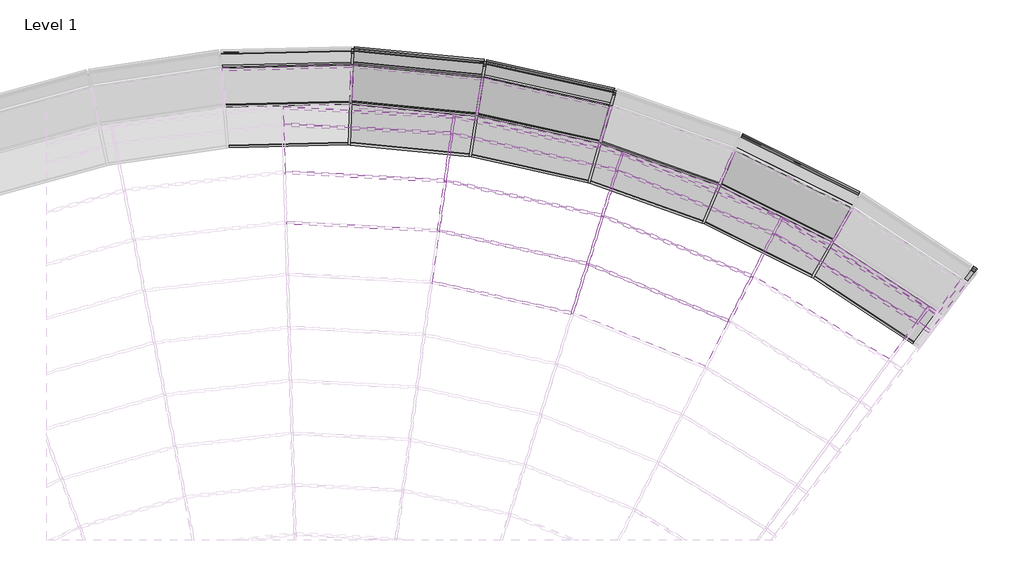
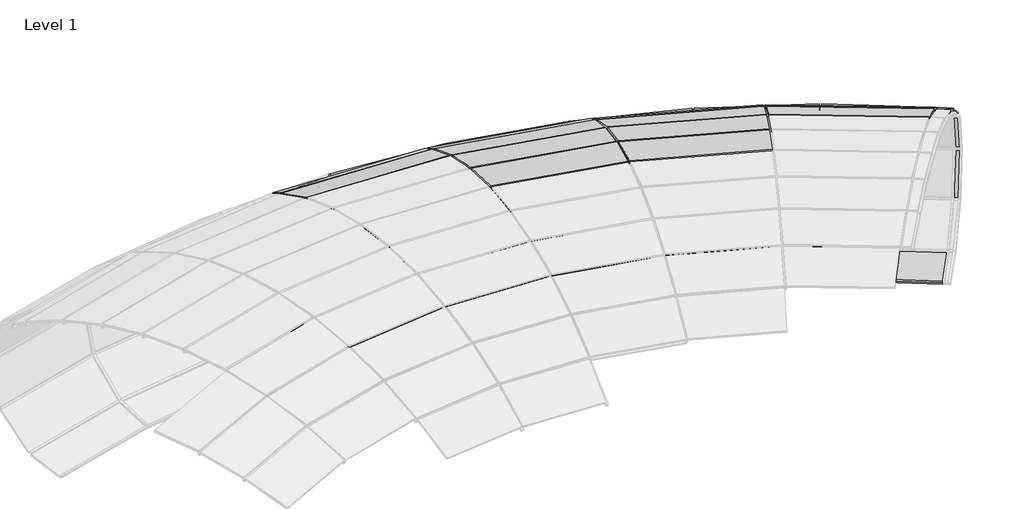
# One storey, part 12 of 23: 71 members, 34 plates.
"""IFC4 building model written with IfcOpenShell, lengths in millimetres."""

from ifc_helpers import new_model, si_unit, origin, place, context, project, spatial, transform, mapped, element, save
from components import member_0cd36c09, member_d0a40a1c, member_ff9adfd2, member_6de91377, member_1c681369, member_20199af6, member_f0155a20, member_cc44513a, member_775132e8, member_8c9da58c, member_391bee44, member_01ebdf2a, member_d6b8231b, member_b171f0c8, member_07455e61, member_515abc7c, member_6834bcaf, member_a3fa0b53, member_b335b832, system_panel_glazed_33c7ebbf, system_panel_glazed_ea272296, system_panel_glazed_e73c3b5f, system_panel_glazed_c38b7309, system_panel_glazed_ed9c6069, system_panel_glazed_e73b46dd, system_panel_glazed_18511c49, system_panel_glazed_e5225984, system_panel_glazed_3a502b53, system_panel_glazed_94c3709e, system_panel_glazed_a189dd2a, system_panel_glazed_130e820a, system_panel_glazed_5e04bf78

model = new_model("IFC4")

# Units and contexts
model_context = context("Model", 3, world=origin())
ifc_project = project(units=[si_unit("LENGTHUNIT", "METRE", prefix="MILLI")], contexts=[model_context])

# Site, building, storey
site = spatial("IfcSite", under=ifc_project)
building = spatial("IfcBuilding", under=site)
storey = spatial("IfcBuildingStorey", under=building, Name="Level 1", Elevation=0.0)

# Members
placement = place(None, origin())
member_shape = member_0cd36c09(model_context)
element("IfcMember", 1, ObjectType="Rectangular Mullion : 1\" Square", at=placement, inside=storey, context=model_context, shape_type="MappedRepresentation", body=[
    mapped(member_shape, transform((1344.2126682, -2686.1420293, 2676.0506073), x_axis=(0.9907327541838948, -0.13582565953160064, 0.0), y_axis=(0.0445916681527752, 0.3252583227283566, 0.944573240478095), z_axis=(-0.12829728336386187, -0.9358196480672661, 0.3283007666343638))),
])
element("IfcMember", 2, ObjectType="Rectangular Mullion : 1\" Square", at=placement, inside=storey, context=model_context, shape_type="MappedRepresentation", body=[
    mapped(member_shape, transform((2878.8079698, -3635.9627782, 2806.2019711), x_axis=(0.9547335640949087, -0.29746230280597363, 0.0), y_axis=(0.06350906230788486, 0.20383837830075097, 0.9769424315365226), z_axis=(-0.2906035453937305, -0.9327197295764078, 0.2135028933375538))),
])
element("IfcMember", 3, ObjectType="Rectangular Mullion : 1\" Square", at=placement, inside=storey, context=model_context, shape_type="MappedRepresentation", body=[
    mapped(member_shape, transform((3055.959891, -3067.3768311, 2676.0506073), x_axis=(0.9547335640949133, -0.29746230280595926, 0.0), y_axis=(0.09765710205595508, 0.3134397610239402, 0.9445732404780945), z_axis=(-0.28097493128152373, -0.9018157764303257, 0.3283007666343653))),
])
element("IfcMember", 4, ObjectType="Rectangular Mullion : 1\" Square", at=placement, inside=storey, context=model_context, shape_type="MappedRepresentation", body=[
    mapped(member_shape, transform((4681.3225086, -3725.871243, 2676.0506073), x_axis=(0.8925533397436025, -0.4509418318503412, 0.0), y_axis=(0.14804454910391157, 0.2930259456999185, 0.9445732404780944), z_axis=(-0.4259475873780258, -0.8430820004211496, 0.3283007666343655))),
])
member_2_shape = member_d0a40a1c(model_context)
element("IfcMember", 5, ObjectType="Rectangular Mullion : 1\" Square", at=placement, inside=storey, context=model_context, shape_type="MappedRepresentation", body=[
    mapped(member_2_shape, transform((1422.4226921, -2115.6663718, 2475.91846), x_axis=(0.9907327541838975, -0.13582565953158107, 0.0), y_axis=(0.05954978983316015, 0.43436510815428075, 0.8987662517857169), z_axis=(-0.12207551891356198, -0.890437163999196, 0.4384281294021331))),
])
element("IfcMember", 6, ObjectType="Rectangular Mullion : 1\" Square", at=placement, inside=storey, context=model_context, shape_type="MappedRepresentation", body=[
    mapped(member_2_shape, transform((3227.2422092, -2517.6299338, 2475.91846), x_axis=(0.9547335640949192, -0.29746230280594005, 0.0), y_axis=(0.13041584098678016, 0.4185820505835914, 0.8987662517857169), z_axis=(-0.2673490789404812, -0.858082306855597, 0.43842812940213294))),
])
element("IfcMember", 7, ObjectType="Rectangular Mullion : 1\" Square", at=placement, inside=storey, context=model_context, shape_type="MappedRepresentation", body=[
    mapped(member_2_shape, transform((4940.9801579, -3211.9284555, 2475.91846), x_axis=(0.8925533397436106, -0.4509418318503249, 0.0), y_axis=(0.19770558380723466, 0.3913204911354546, 0.8987662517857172), z_axis=(-0.4052912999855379, -0.8021968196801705, 0.4384281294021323))),
])
member_3_shape = member_ff9adfd2(model_context)
element("IfcMember", 8, ObjectType="Rectangular Mullion : 1\" Square", at=placement, inside=storey, context=model_context, shape_type="MappedRepresentation", body=[
    mapped(member_3_shape, transform((1496.8399284, -1572.8558767, 2208.6526723), x_axis=(0.9907327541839, -0.1358256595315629, 0.0), y_axis=(0.06948914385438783, 0.5068642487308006, 0.8592205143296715), z_axis=(-0.11670419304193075, -0.8512579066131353, 0.5116054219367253))),
])
element("IfcMember", 9, ObjectType="Rectangular Mullion : 1\" Square", at=placement, inside=storey, context=model_context, shape_type="MappedRepresentation", body=[
    mapped(member_3_shape, transform((3390.2182077, -1994.5429595, 2208.6526723), x_axis=(0.954733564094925, -0.2974623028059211, 0.0), y_axis=(0.15218332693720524, 0.4884468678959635, 0.8592205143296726), z_axis=(-0.25558571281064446, -0.8203266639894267, 0.5116054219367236))),
])
element("IfcMember", 10, ObjectType="Rectangular Mullion : 1\" Square", at=placement, inside=storey, context=model_context, shape_type="MappedRepresentation", body=[
    mapped(member_3_shape, transform((5188.0457344, -2722.9092742, 2208.6526723), x_axis=(0.8925533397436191, -0.4509418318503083, 0.0), y_axis=(0.2307042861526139, 0.45663512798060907, 0.8592205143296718), z_axis=(-0.3874584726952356, -0.7669001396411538, 0.511605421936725))),
])
element("IfcMember", 11, ObjectType="Rectangular Mullion : 1\" Square", at=placement, inside=storey, context=model_context, shape_type="MappedRepresentation", body=[
    mapped(member_3_shape, transform((6841.0218598, -3737.9813076, 2208.6526723), x_axis=(0.8058972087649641, -0.592055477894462, 0.0), y_axis=(0.30289879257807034, 0.41230138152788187, 0.8592205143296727), z_axis=(-0.5087062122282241, -0.6924434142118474, 0.5116054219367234))),
])
member_4_shape = member_6de91377(model_context)
element("IfcMember", 12, ObjectType="Rectangular Mullion : 1\" Square", at=placement, inside=storey, context=model_context, shape_type="MappedRepresentation", body=[
    mapped(member_4_shape, transform((2866.4116937, -3633.2019198, 2806.2019711), x_axis=(0.2147917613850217, 0.9644166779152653, -0.15415891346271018), y_axis=(0.03351267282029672, 0.1504721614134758, 0.9880460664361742), z_axis=(0.9760847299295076, -0.2173904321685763, 0.0))),
])
member_5_shape = member_1c681369(model_context)
element("IfcMember", 13, ObjectType="Rectangular Mullion : 1\" Square", at=placement, inside=storey, context=model_context, shape_type="MappedRepresentation", body=[
    mapped(member_5_shape, transform((1331.5307397, -2685.4647622, 2676.0506073), x_axis=(0.051342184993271, 0.9613900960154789, -0.27035728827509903), y_axis=(0.014417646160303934, 0.26997258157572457, 0.9627600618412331), z_axis=(0.9985770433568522, -0.053328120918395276, 0.0))),
])
element("IfcMember", 14, ObjectType="Rectangular Mullion : 1\" Square", at=placement, inside=storey, context=model_context, shape_type="MappedRepresentation", body=[
    mapped(member_5_shape, transform((3043.563615, -3064.6159726, 2676.0506073), x_axis=(0.20929482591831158, 0.939735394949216, -0.27035728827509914), y_axis=(0.05877308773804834, 0.26389162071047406, 0.9627600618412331), z_axis=(0.9760847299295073, -0.21739043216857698, 0.0))),
])
element("IfcMember", 15, ObjectType="Rectangular Mullion : 1\" Square", at=placement, inside=storey, context=model_context, shape_type="MappedRepresentation", body=[
    mapped(member_5_shape, transform((4669.5518199, -3721.1025024, 2676.0506073), x_axis=(0.3615081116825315, 0.8923109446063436, -0.27035728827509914), y_axis=(0.10151683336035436, 0.25057413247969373, 0.9627600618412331), z_axis=(0.9268258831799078, -0.37549138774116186, 0.0))),
])
member_6_shape = member_20199af6(model_context)
element("IfcMember", 16, ObjectType="Rectangular Mullion : 1\" Square", at=placement, inside=storey, context=model_context, shape_type="MappedRepresentation", body=[
    mapped(member_6_shape, transform((1409.7407637, -2114.9891047, 2475.91846), x_axis=(0.04926663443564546, 0.9225251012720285, -0.3827796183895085), y_axis=(0.020412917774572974, 0.38223493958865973, 0.9238396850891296), z_axis=(0.9985770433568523, -0.053328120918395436, 0.0))),
])
element("IfcMember", 17, ObjectType="Rectangular Mullion : 1\" Square", at=placement, inside=storey, context=model_context, shape_type="MappedRepresentation", body=[
    mapped(member_6_shape, transform((3214.8459331, -2514.8690753, 2475.91846), x_axis=(0.20083390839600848, 0.9017458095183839, -0.38277961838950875), y_axis=(0.08321262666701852, 0.37362534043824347, 0.9238396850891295), z_axis=(0.9760847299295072, -0.2173904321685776, 0.0))),
])
element("IfcMember", 18, ObjectType="Rectangular Mullion : 1\" Square", at=placement, inside=storey, context=model_context, shape_type="MappedRepresentation", body=[
    mapped(member_6_shape, transform((4929.2094692, -3207.1597149, 2475.91846), x_axis=(0.34689384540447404, 0.856238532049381, -0.3827796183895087), y_axis=(0.1437304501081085, 0.35477005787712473, 0.9238396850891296), z_axis=(0.9268258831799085, -0.37549138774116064, 0.0))),
])
member_7_shape = member_f0155a20(model_context)
element("IfcMember", 19, ObjectType="Rectangular Mullion : 1\" Square", at=placement, inside=storey, context=model_context, shape_type="MappedRepresentation", body=[
    mapped(member_7_shape, transform((1484.158, -1572.1786095, 2208.6526723), x_axis=(0.04649197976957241, 0.8705692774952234, -0.4898444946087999), y_axis=(0.026122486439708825, 0.489147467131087, 0.8718098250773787), z_axis=(0.9985770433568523, -0.05332812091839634, 0.0))),
])
element("IfcMember", 20, ObjectType="Rectangular Mullion : 1\" Square", at=placement, inside=storey, context=model_context, shape_type="MappedRepresentation", body=[
    mapped(member_7_shape, transform((3377.8219316, -1991.782101, 2208.6526723), x_axis=(0.18952311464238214, 0.8509602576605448, -0.4898444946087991), y_axis=(0.10648750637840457, 0.47812973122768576, 0.8718098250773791), z_axis=(0.9760847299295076, -0.21739043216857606, 0.0))),
])
element("IfcMember", 21, ObjectType="Rectangular Mullion : 1\" Square", at=placement, inside=storey, context=model_context, shape_type="MappedRepresentation", body=[
    mapped(member_7_shape, transform((5176.2750457, -2718.1405336, 2208.6526723), x_axis=(0.3273570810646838, 0.8080159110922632, -0.48984449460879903), y_axis=(0.18393238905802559, 0.4540005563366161, 0.8718098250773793), z_axis=(0.9268258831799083, -0.3754913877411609, 0.0))),
])
element("IfcMember", 22, ObjectType="Rectangular Mullion : 1\" Square", at=placement, inside=storey, context=model_context, shape_type="MappedRepresentation", body=[
    mapped(member_7_shape, transform((6830.1995383, -3731.3354549, 2208.6526723), x_axis=(0.45621414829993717, 0.7429138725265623, -0.4898444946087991), y_axis=(0.2563334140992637, 0.4174216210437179, 0.8718098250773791), z_axis=(0.8521512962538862, -0.5232954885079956, 0.0))),
])
member_8_shape = member_cc44513a(model_context)
element("IfcMember", 23, ObjectType="Rectangular Mullion : 1\" Square", at=placement, inside=storey, context=model_context, shape_type="MappedRepresentation", body=[
    mapped(member_8_shape, transform((6979.6758413, -3841.6645549, 2208.6526723), x_axis=(0.5216341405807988, 0.6975731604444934, -0.4912122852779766), y_axis=(0.29416918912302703, 0.3933878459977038, 0.8710398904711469), z_axis=(0.8008509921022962, -0.5988636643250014, 0.0))),
])
member_9_shape = member_775132e8(model_context)
element("IfcMember", 24, ObjectType="Rectangular Mullion : 1\" Square", at=placement, inside=storey, context=model_context, shape_type="MappedRepresentation", body=[
    mapped(member_9_shape, transform((1512.2259527, -1367.4467482, 2085.6089632), x_axis=(0.04577927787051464, 0.8572238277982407, -0.5129050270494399), y_axis=(0.027352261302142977, 0.5121751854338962, 0.8584453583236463), z_axis=(0.9985770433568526, -0.05332812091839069, 0.0))),
])
element("IfcMember", 25, ObjectType="Rectangular Mullion : 1\" Square", at=placement, inside=storey, context=model_context, shape_type="MappedRepresentation", body=[
    mapped(member_9_shape, transform((3439.291597, -1794.4893611, 2085.6089632), x_axis=(0.186617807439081, 0.8379154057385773, -0.5129050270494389), y_axis=(0.11150064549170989, 0.500638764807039, 0.858445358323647), z_axis=(0.9760847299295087, -0.2173904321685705, 0.0))),
])
element("IfcMember", 26, ObjectType="Rectangular Mullion : 1\" Square", at=placement, inside=storey, context=model_context, shape_type="MappedRepresentation", body=[
    mapped(member_9_shape, transform((5269.4607813, -2533.6971449, 2085.6089632), x_axis=(0.3223388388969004, 0.7956293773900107, -0.5129050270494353), y_axis=(0.1925914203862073, 0.47537365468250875, 0.8584453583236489), z_axis=(0.9268258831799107, -0.3754913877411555, 0.0))),
])
element("IfcMember", 27, ObjectType="Rectangular Mullion : 1\" Square", at=placement, inside=storey, context=model_context, shape_type="MappedRepresentation", body=[
    mapped(member_9_shape, transform((6952.5459728, -3564.7992878, 2085.6089632), x_axis=(0.44922058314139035, 0.7315253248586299, -0.5129050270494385), y_axis=(0.26840088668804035, 0.43707268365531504, 0.8584453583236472), z_axis=(0.8521512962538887, -0.523295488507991, 0.0))),
])
member_10_shape = member_8c9da58c(model_context)
element("IfcMember", 28, ObjectType="Rectangular Mullion : 1\" Square", at=placement, inside=storey, context=model_context, shape_type="MappedRepresentation", body=[
    mapped(member_10_shape, transform((353.4483391, -796.3758477, 1696.6281859), x_axis=(0.999347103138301, -0.036129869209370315, 0.0), y_axis=(0.03440139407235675, 0.951537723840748, 0.3056018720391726), z_axis=(-0.011041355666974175, -0.3054023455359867, 0.9521593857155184))),
])
element("IfcMember", 29, ObjectType="Rectangular Mullion : 1\" Square", at=placement, inside=storey, context=model_context, shape_type="MappedRepresentation", body=[
    mapped(member_10_shape, transform((360.1791495, -610.2025778, 1116.1918244), x_axis=(0.9993471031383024, -0.03612986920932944, 0.0), y_axis=(0.03493738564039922, 0.9663631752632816, -0.25479715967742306), z_axis=(0.00920578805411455, 0.25463080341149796, 0.9669945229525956))),
])
element("IfcMember", 30, ObjectType="Rectangular Mullion : 1\" Square", at=placement, inside=storey, context=model_context, shape_type="MappedRepresentation", body=[
    mapped(member_10_shape, transform((1850.4708811, -941.8524455, 1696.6281859), x_axis=(0.9876054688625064, -0.15695680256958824, 0.0), y_axis=(0.14944789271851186, 0.9403578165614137, 0.30560187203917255), z_axis=(-0.047966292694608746, -0.30181408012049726, 0.9521593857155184))),
])
element("IfcMember", 31, ObjectType="Rectangular Mullion : 1\" Square", at=placement, inside=storey, context=model_context, shape_type="MappedRepresentation", body=[
    mapped(member_10_shape, transform((1879.7111332, -757.8665822, 1116.1918244), x_axis=(0.9876054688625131, -0.15695680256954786, 0.0), y_axis=(0.15177636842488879, 0.9550090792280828, -0.254797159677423), z_axis=(0.039992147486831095, 0.25163906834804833, 0.9669945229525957))),
])
element("IfcMember", 32, ObjectType="Rectangular Mullion : 1\" Square", at=placement, inside=storey, context=model_context, shape_type="MappedRepresentation", body=[
    mapped(member_10_shape, transform((3318.8348727, -1267.654717, 1696.6281859), x_axis=(0.9613094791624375, -0.2754706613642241, 0.0), y_axis=(0.2622919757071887, 0.9153198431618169, 0.3056018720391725), z_axis=(-0.0841843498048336, -0.29377797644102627, 0.9521593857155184))),
])
element("IfcMember", 33, ObjectType="Rectangular Mullion : 1\" Square", at=placement, inside=storey, context=model_context, shape_type="MappedRepresentation", body=[
    mapped(member_10_shape, transform((3370.1536524, -1088.5676625, 1116.1918244), x_axis=(0.9613094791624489, -0.2754706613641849, 0.0), y_axis=(0.2663786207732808, 0.9295810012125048, -0.2547971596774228), z_axis=(0.07018914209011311, 0.24493892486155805, 0.9669945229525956))),
])
member_11_shape = member_391bee44(model_context)
element("IfcMember", 34, ObjectType="Rectangular Mullion : 1\" Square", at=placement, inside=storey, context=model_context, shape_type="MappedRepresentation", body=[
    mapped(member_11_shape, transform((354.5673011, -765.4255156, 526.7119632), x_axis=(0.999347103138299, -0.03612986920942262, 0.0), y_axis=(0.02449370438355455, 0.6774924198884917, -0.7351218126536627), z_axis=(0.02655985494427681, 0.7346418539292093, 0.6779350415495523))),
])
element("IfcMember", 35, ObjectType="Rectangular Mullion : 1\" Square", at=placement, inside=storey, context=model_context, shape_type="MappedRepresentation", body=[
    mapped(member_11_shape, transform((1855.3319201, -911.2657583, 526.7119632), x_axis=(0.9876054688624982, -0.15695680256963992, 0.0), y_axis=(0.10640651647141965, 0.6695323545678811, -0.7351218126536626), z_axis=(0.11538236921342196, 0.7260103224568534, 0.6779350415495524))),
])
element("IfcMember", 36, ObjectType="Rectangular Mullion : 1\" Square", at=placement, inside=storey, context=model_context, shape_type="MappedRepresentation", body=[
    mapped(member_11_shape, transform((3327.3663514, -1237.8824311, 526.7119632), x_axis=(0.9613094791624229, -0.2754706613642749, 0.0), y_axis=(0.18675121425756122, 0.6517053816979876, -0.7351218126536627), z_axis=(0.20250449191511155, 0.7066795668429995, 0.6779350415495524))),
])
member_12_shape = member_01ebdf2a(model_context)
element("IfcMember", 37, ObjectType="Rectangular Mullion : 1\" Square", at=placement, inside=storey, context=model_context, shape_type="MappedRepresentation", body=[
    mapped(member_12_shape, transform((338.3764136, -1213.2631897, 113.4427618), x_axis=(0.9993471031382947, -0.0361298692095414, 0.0), y_axis=(0.008251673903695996, 0.22824014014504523, -0.9735698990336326), z_axis=(0.03517495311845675, 0.9729342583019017, 0.22838925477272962))),
])
element("IfcMember", 38, ObjectType="Rectangular Mullion : 1\" Square", at=placement, inside=storey, context=model_context, shape_type="MappedRepresentation", body=[
    mapped(member_12_shape, transform((1784.9948278, -1353.8416509, 113.4427618), x_axis=(0.9876054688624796, -0.15695680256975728, 0.0), y_axis=(0.035847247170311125, 0.2255584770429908, -0.9735698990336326), z_axis=(0.15280841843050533, 0.9615029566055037, 0.22838925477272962))),
])
element("IfcMember", 39, ObjectType="Rectangular Mullion : 1\" Square", at=placement, inside=storey, context=model_context, shape_type="MappedRepresentation", body=[
    mapped(member_12_shape, transform((3203.9196131, -1668.6742951, 113.4427618), x_axis=(0.9613094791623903, -0.27547066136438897, 0.0), y_axis=(0.06291453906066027, 0.21955275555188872, -0.9735698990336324), z_axis=(0.26818994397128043, 0.9359019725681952, 0.22838925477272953))),
])
element("IfcMember", 40, ObjectType="Rectangular Mullion : 1\" Square", at=placement, inside=storey, context=model_context, shape_type="MappedRepresentation", body=[
    mapped(member_12_shape, transform((4574.2400553, -2153.1214293, 113.4427618), x_axis=(0.92084665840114, -0.3899249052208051, 0.0), y_axis=(0.08905465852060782, 0.21031148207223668, -0.9735698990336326), z_axis=(0.3796191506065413, 0.896508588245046, 0.2283892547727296))),
])
element("IfcMember", 41, ObjectType="Rectangular Mullion : 1\" Square", at=placement, inside=storey, context=model_context, shape_type="MappedRepresentation", body=[
    mapped(member_12_shape, transform((5875.7617231, -2800.0437495, 113.4427618), x_axis=(0.8668133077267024, -0.4986328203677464, 0.0), y_axis=(0.11388237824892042, 0.19797084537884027, -0.9735698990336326), z_axis=(0.48545390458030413, 0.8439033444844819, 0.22838925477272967))),
])
member_13_shape = member_d6b8231b(model_context)
element("IfcMember", 42, ObjectType="Rectangular Mullion : 1\" Square", at=placement, inside=storey, context=model_context, shape_type="MappedRepresentation", body=[
    mapped(member_13_shape, transform((5849.729062, -2845.2984061, 2085.6089632), x_axis=(0.8668133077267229, -0.49863282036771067, 0.0), y_axis=(0.31817352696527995, 0.5531064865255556, 0.7699602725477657), z_axis=(-0.38392746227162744, -0.6674118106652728, 0.6380918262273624))),
])
element("IfcMember", 43, ObjectType="Rectangular Mullion : 1\" Square", at=placement, inside=storey, context=model_context, shape_type="MappedRepresentation", body=[
    mapped(member_13_shape, transform((4553.8828255, -2201.1970633, 2085.6089632), x_axis=(0.9208466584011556, -0.3899249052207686, 0.0), y_axis=(0.24880789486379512, 0.5875847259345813, 0.7699602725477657), z_axis=(-0.3002266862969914, -0.7090153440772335, 0.6380918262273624))),
])
element("IfcMember", 44, ObjectType="Rectangular Mullion : 1\" Square", at=placement, inside=storey, context=model_context, shape_type="MappedRepresentation", body=[
    mapped(member_13_shape, transform((3189.5378194, -1718.8624152, 2085.6089632), x_axis=(0.9613094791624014, -0.2754706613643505, 0.0), y_axis=(0.17577557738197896, 0.6134037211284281, 0.7699602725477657), z_axis=(-0.21210146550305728, -0.7401701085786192, 0.6380918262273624))),
])
element("IfcMember", 45, ObjectType="Rectangular Mullion : 1\" Square", at=placement, inside=storey, context=model_context, shape_type="MappedRepresentation", body=[
    mapped(member_13_shape, transform((1776.8004148, -1405.402634, 2085.6089632), x_axis=(0.987605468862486, -0.15695680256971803, 0.0), y_axis=(0.10015285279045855, 0.6301829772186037, 0.7699602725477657), z_axis=(-0.12085050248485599, -0.7604169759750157, 0.6380918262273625))),
])
element("IfcMember", 46, ObjectType="Rectangular Mullion : 1\" Square", at=placement, inside=storey, context=model_context, shape_type="MappedRepresentation", body=[
    mapped(member_13_shape, transform((336.4901425, -1265.4371811, 2085.6089632), x_axis=(0.9993471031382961, -0.03612986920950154, 0.0), y_axis=(0.023054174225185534, 0.6376752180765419, 0.7699602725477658), z_axis=(-0.027818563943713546, -0.7694575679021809, 0.6380918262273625))),
])
member_14_shape = member_b171f0c8(model_context)
element("IfcMember", 47, ObjectType="Rectangular Mullion : 1\" Square", at=placement, inside=storey, context=model_context, shape_type="MappedRepresentation", body=[
    mapped(member_14_shape, transform((347.4829914, -610.5149365, 1116.1918244), x_axis=(-0.0006524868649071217, 0.026521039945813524, -0.9996480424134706), y_axis=(-0.0245865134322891, 0.9993456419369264, 0.026529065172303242), z_axis=(0.9996974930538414, 0.024595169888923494, 0.0))),
])
element("IfcMember", 48, ObjectType="Rectangular Mullion : 1\" Square", at=placement, inside=storey, context=model_context, shape_type="MappedRepresentation", body=[
    mapped(member_14_shape, transform((1867.0706775, -756.638217, 1116.1918244), x_axis=(0.00256593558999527, 0.02640468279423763, -0.9996480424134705), y_axis=(0.0966876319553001, 0.9949611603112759, 0.026529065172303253), z_axis=(0.9953114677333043, -0.09672167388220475, 0.0))),
])
element("IfcMember", 49, ObjectType="Rectangular Mullion : 1\" Square", at=placement, inside=storey, context=model_context, shape_type="MappedRepresentation", body=[
    mapped(member_14_shape, transform((3357.7551818, -1085.8166758, 1116.1918244), x_axis=(0.005746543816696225, 0.025899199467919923, -0.9996480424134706), y_axis=(0.2165368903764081, 0.9759139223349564, 0.02652906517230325), z_axis=(0.9762575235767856, -0.21661312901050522, 0.0))),
])
member_15_shape = member_07455e61(model_context)
element("IfcMember", 50, ObjectType="Rectangular Mullion : 1\" Square", at=placement, inside=storey, context=model_context, shape_type="MappedRepresentation", body=[
    mapped(member_15_shape, transform((341.871143, -765.7378742, 526.7119632), x_axis=(0.012706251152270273, -0.5164594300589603, -0.8562173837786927), y_axis=(-0.02105881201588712, 0.8559583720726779, -0.5166157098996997), z_axis=(0.9996974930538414, 0.024595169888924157, 0.0))),
])
element("IfcMember", 51, ObjectType="Rectangular Mullion : 1\" Square", at=placement, inside=storey, context=model_context, shape_type="MappedRepresentation", body=[
    mapped(member_15_shape, transform((1842.6914644, -910.0373931, 526.7119632), x_axis=(-0.049967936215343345, -0.5141935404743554, -0.8562173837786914), y_axis=(0.08281477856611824, 0.8522029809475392, -0.5166157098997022), z_axis=(0.995311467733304, -0.09672167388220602, 0.0))),
])
element("IfcMember", 52, ObjectType="Rectangular Mullion : 1\" Square", at=placement, inside=storey, context=model_context, shape_type="MappedRepresentation", body=[
    mapped(member_15_shape, transform((3314.9678808, -1235.1314444, 526.7119632), x_axis=(-0.1119057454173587, -0.5043499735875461, -0.8562173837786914), y_axis=(0.1854679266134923, 0.8358886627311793, -0.5166157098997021), z_axis=(0.9762575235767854, -0.2166131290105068, 0.0))),
])
member_16_shape = member_515abc7c(model_context)
element("IfcMember", 53, ObjectType="Rectangular Mullion : 1\" Square", at=placement, inside=storey, context=model_context, shape_type="MappedRepresentation", body=[
    mapped(member_16_shape, transform((340.752181, -796.6882063, 1696.6281859), x_axis=(-0.013804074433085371, 0.5610816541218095, -0.8276453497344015), y_axis=(-0.02035607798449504, 0.827394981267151, 0.5612514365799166), z_axis=(0.9996974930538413, 0.02459516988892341, 0.0))),
])
element("IfcMember", 54, ObjectType="Rectangular Mullion : 1\" Square", at=placement, inside=storey, context=model_context, shape_type="MappedRepresentation", body=[
    mapped(member_16_shape, transform((1837.8304255, -940.6240802, 1696.6281859), x_axis=(0.054285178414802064, 0.5586199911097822, -0.8276453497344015), y_axis=(0.08005124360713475, 0.8237649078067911, 0.5612514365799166), z_axis=(0.9953114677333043, -0.09672167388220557, 0.0))),
])
element("IfcMember", 55, ObjectType="Rectangular Mullion : 1\" Square", at=placement, inside=storey, context=model_context, shape_type="MappedRepresentation", body=[
    mapped(member_16_shape, transform((3306.4364022, -1264.9037302, 1696.6281859), x_axis=(0.12157442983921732, 0.5479259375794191, -0.8276453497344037), y_axis=(0.1792788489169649, 0.8079949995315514, 0.5612514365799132), z_axis=(0.9762575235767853, -0.2166131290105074, 0.0))),
])
member_17_shape = member_6834bcaf(model_context)
element("IfcMember", 56, ObjectType="Rectangular Mullion : 1\" Square", at=placement, inside=storey, context=model_context, shape_type="MappedRepresentation", body=[
    mapped(member_17_shape, transform((325.6802554, -1213.5755484, 113.4427618), x_axis=(0.022043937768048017, -0.89599988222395, -0.44350679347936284), y_axis=(-0.010908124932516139, 0.44337262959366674, -0.8962710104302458), z_axis=(0.9996974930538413, 0.024595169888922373, 0.0))),
])
element("IfcMember", 57, ObjectType="Rectangular Mullion : 1\" Square", at=placement, inside=storey, context=model_context, shape_type="MappedRepresentation", body=[
    mapped(member_17_shape, transform((1772.3543722, -1352.6132856, 113.4427618), x_axis=(-0.08668883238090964, -0.8920688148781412, -0.44350679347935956), y_axis=(0.04289671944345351, 0.44142739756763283, -0.8962710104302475), z_axis=(0.995311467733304, -0.096721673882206, 0.0))),
])
element("IfcMember", 58, ObjectType="Rectangular Mullion : 1\" Square", at=placement, inside=storey, context=model_context, shape_type="MappedRepresentation", body=[
    mapped(member_17_shape, transform((3191.5211425, -1665.9233083, 113.4427618), x_axis=(-0.1941440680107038, -0.8749913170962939, -0.4435067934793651), y_axis=(0.09606939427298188, 0.4329768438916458, -0.8962710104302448), z_axis=(0.9762575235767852, -0.21661312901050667, 0.0))),
])
element("IfcMember", 59, ObjectType="Rectangular Mullion : 1\" Square", at=placement, inside=storey, context=model_context, shape_type="MappedRepresentation", body=[
    mapped(member_17_shape, transform((4562.2662862, -2148.8883624, 113.4427618), x_axis=(-0.29873819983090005, -0.8450190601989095, -0.44350679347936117), y_axis=(0.14782629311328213, 0.4181455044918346, -0.8962710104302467), z_axis=(0.9428164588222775, -0.3333123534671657, 0.0))),
])
element("IfcMember", 60, ObjectType="Rectangular Mullion : 1\" Square", at=placement, inside=storey, context=model_context, shape_type="MappedRepresentation", body=[
    mapped(member_17_shape, transform((5864.3891132, -2794.3909852, 113.4427618), x_axis=(-0.39892982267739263, -0.8025937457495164, -0.4435067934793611), y_axis=(0.19740467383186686, 0.39715194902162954, -0.8962710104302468), z_axis=(0.8954810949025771, -0.4450995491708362, 0.0))),
])
member_18_shape = member_a3fa0b53(model_context)
element("IfcMember", 61, ObjectType="Rectangular Mullion : 1\" Square", at=placement, inside=storey, context=model_context, shape_type="MappedRepresentation", body=[
    mapped(member_18_shape, transform((308.208576, -1696.8397434, 0.0), x_axis=(0.023942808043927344, -0.9731815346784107, -0.2287890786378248), y_axis=(-0.005627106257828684, 0.22871986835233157, -0.9734760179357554), z_axis=(0.9996974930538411, 0.02459516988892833, 0.0))),
])
element("IfcMember", 62, ObjectType="Rectangular Mullion : 1\" Square", at=placement, inside=storey, context=model_context, shape_type="MappedRepresentation", body=[
    mapped(member_18_shape, transform((1696.4532137, -1830.199462, 0.0), x_axis=(-0.09415622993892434, -0.96891184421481, -0.22878907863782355), y_axis=(0.02212886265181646, 0.22771639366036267, -0.9734760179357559), z_axis=(0.9953114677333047, -0.09672167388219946, 0.0))),
])
element("IfcMember", 63, ObjectType="Rectangular Mullion : 1\" Square", at=placement, inside=storey, context=model_context, shape_type="MappedRepresentation", body=[
    mapped(member_18_shape, transform((3058.3090614, -2130.793272, 0.0), x_axis=(-0.21086768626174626, -0.9503632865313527, -0.22878907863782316), y_axis=(0.04955871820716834, 0.22335705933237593, -0.9734760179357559), z_axis=(0.9762575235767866, -0.21661312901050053, 0.0))),
])
element("IfcMember", 64, ObjectType="Rectangular Mullion : 1\" Square", at=placement, inside=storey, context=model_context, shape_type="MappedRepresentation", body=[
    mapped(member_18_shape, transform((4373.7064307, -2594.1913184, 0.0), x_axis=(-0.32447158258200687, -0.9178092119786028, -0.22878907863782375), y_axis=(0.07625822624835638, 0.21570610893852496, -0.9734760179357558), z_axis=(0.942816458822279, -0.3333123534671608, 0.0))),
])
element("IfcMember", 65, ObjectType="Rectangular Mullion : 1\" Square", at=placement, inside=storey, context=model_context, shape_type="MappedRepresentation", body=[
    mapped(member_18_shape, transform((5623.2602924, -3213.5644976, 0.0), x_axis=(-0.4332937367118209, -0.8717293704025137, -0.22878907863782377), y_axis=(0.10183391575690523, 0.20487629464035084, -0.9734760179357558), z_axis=(0.8954810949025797, -0.4450995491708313, 0.0))),
])
element("IfcMember", 66, ObjectType="Rectangular Mullion : 1\" Square", at=placement, inside=storey, context=model_context, shape_type="MappedRepresentation", body=[
    mapped(member_18_shape, transform((6788.5559541, -3979.7850987, 0.0), x_axis=(-0.5357304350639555, -0.8128028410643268, -0.22878907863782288), y_axis=(0.12590887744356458, 0.19102721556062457, -0.9734760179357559), z_axis=(0.8349490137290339, -0.5503273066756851, 0.0))),
])
member_19_shape = member_b335b832(model_context)
element("IfcMember", 67, ObjectType="Rectangular Mullion : 1\" Square", at=placement, inside=storey, context=model_context, shape_type="MappedRepresentation", body=[
    mapped(member_19_shape, transform((349.1305982, -1266.6655463, 2085.6089632), x_axis=(-0.07441584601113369, -0.7657740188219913, 0.638789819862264), y_axis=(0.06178482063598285, 0.6357948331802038, 0.7693812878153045), z_axis=(-0.9953114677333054, 0.09672167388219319, 0.0))),
])
element("IfcMember", 68, ObjectType="Rectangular Mullion : 1\" Square", at=placement, inside=storey, context=model_context, shape_type="MappedRepresentation", body=[
    mapped(member_19_shape, transform((1789.1988854, -1408.1536208, 2085.6089632), x_axis=(-0.16665808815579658, -0.7511142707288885, 0.6387898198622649), y_axis=(0.13837026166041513, 0.6236233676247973, 0.7693812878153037), z_axis=(-0.9762575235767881, 0.2166131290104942, 0.0))),
])
element("IfcMember", 69, ObjectType="Rectangular Mullion : 1\" Square", at=placement, inside=storey, context=model_context, shape_type="MappedRepresentation", body=[
    mapped(member_19_shape, transform((3201.5115884, -1723.0954821, 2085.6089632), x_axis=(-0.2564442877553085, -0.7253853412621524, 0.6387898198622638), y_axis=(0.21291653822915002, 0.6022615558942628, 0.7693812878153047), z_axis=(-0.9428164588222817, 0.33331235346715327, 0.0))),
])
element("IfcMember", 70, ObjectType="Rectangular Mullion : 1\" Square", at=placement, inside=storey, context=model_context, shape_type="MappedRepresentation", body=[
    mapped(member_19_shape, transform((4565.2554354, -2206.8498276, 2085.6089632), x_axis=(-0.3424512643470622, -0.6889663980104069, 0.6387898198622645), y_axis=(0.28432506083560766, 0.5720242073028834, 0.7693812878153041), z_axis=(-0.8954810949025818, 0.44509954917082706, 0.0))),
])
element("IfcMember", 71, ObjectType="Rectangular Mullion : 1\" Square", at=placement, inside=storey, context=model_context, shape_type="MappedRepresentation", body=[
    mapped(member_19_shape, transform((5860.3329145, -2852.2875629, 2085.6089632), x_axis=(-0.42341153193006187, -0.6423941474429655, 0.6387898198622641), y_axis=(0.35154348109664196, 0.5333569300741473, 0.7693812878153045), z_axis=(-0.834949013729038, 0.550327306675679, 0.0))),
])

# Plates
system_panel_glazed_shape = system_panel_glazed_33c7ebbf(model_context)
element("IfcPlate", 72, ObjectType="System Panel : Glazed", at=placement, inside=storey, context=model_context, shape_type="MappedRepresentation", body=[
    mapped(system_panel_glazed_shape, transform((2073.762009, -3443.9563869, 2803.4815699), x_axis=(0.97608472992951, -0.2173904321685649, 0.0), y_axis=(-0.046566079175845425, -0.20908205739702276, -0.9767887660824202), z_axis=(0.21234453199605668, 0.9534285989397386, -0.21420482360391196))),
])
element("IfcPlate", 73, ObjectType="System Panel : Glazed", at=placement, inside=storey, context=model_context, shape_type="MappedRepresentation", body=[
    mapped(system_panel_glazed_shape, transform((3650.4454164, -3935.1969746, 2803.4815699), x_axis=(0.9268258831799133, -0.3754913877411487, 0.0), y_axis=(-0.08043206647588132, -0.19853057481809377, -0.97678876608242), z_axis=(0.3667757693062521, 0.9053131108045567, -0.21420482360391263))),
])
system_panel_glazed_2_shape = system_panel_glazed_ea272296(model_context)
element("IfcPlate", 74, ObjectType="System Panel : Glazed", at=placement, inside=storey, context=model_context, shape_type="MappedRepresentation", body=[
    mapped(system_panel_glazed_2_shape, transform((2202.6931431, -2865.054593, 2671.8683773), x_axis=(0.9760847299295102, -0.2173904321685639, 0.0), y_axis=(-0.07158872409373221, -0.3214339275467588, -0.9442220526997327), z_axis=(0.2052648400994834, 0.9216407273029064, -0.32930945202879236))),
])
element("IfcPlate", 75, ObjectType="System Panel : Glazed", at=placement, inside=storey, context=model_context, shape_type="MappedRepresentation", body=[
    mapped(system_panel_glazed_2_shape, transform((3873.1439499, -3385.5098932, 2671.8683773), x_axis=(0.9268258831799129, -0.3754913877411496, 0.0), y_axis=(-0.12365286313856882, -0.3052125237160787, -0.9442220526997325), z_axis=(0.3545472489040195, 0.87512943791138, -0.32930945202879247))),
])
system_panel_glazed_3_shape = system_panel_glazed_e73c3b5f(model_context)
element("IfcPlate", 76, ObjectType="System Panel : Glazed", at=placement, inside=storey, context=model_context, shape_type="MappedRepresentation", body=[
    mapped(system_panel_glazed_3_shape, transform((499.8266436, -2054.9729278, 2470.3349411), x_axis=(0.9985770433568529, -0.05332812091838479, 0.0), y_axis=(-0.02344555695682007, -0.43902156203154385, -0.8981705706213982), z_axis=(0.04789774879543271, 0.8968925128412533, -0.4396471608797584))),
])
element("IfcPlate", 77, ObjectType="System Panel : Glazed", at=placement, inside=storey, context=model_context, shape_type="MappedRepresentation", body=[
    mapped(system_panel_glazed_3_shape, transform((2327.3121725, -2305.5141825, 2470.3349411), x_axis=(0.9760847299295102, -0.2173904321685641, 0.0), y_axis=(-0.09557508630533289, -0.42913288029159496, -0.898170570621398), z_axis=(0.19525368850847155, 0.8766905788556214, -0.43964716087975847))),
])
element("IfcPlate", 78, ObjectType="System Panel : Glazed", at=placement, inside=storey, context=model_context, shape_type="MappedRepresentation", body=[
    mapped(system_panel_glazed_3_shape, transform((4088.394326, -2854.2071085, 2470.3349411), x_axis=(0.926825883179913, -0.3754913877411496, 0.0), y_axis=(-0.1650837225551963, -0.4074763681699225, -0.8981705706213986), z_axis=(0.33725531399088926, 0.8324477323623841, -0.43964716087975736))),
])
element("IfcPlate", 79, ObjectType="System Panel : Glazed", at=placement, inside=storey, context=model_context, shape_type="MappedRepresentation", body=[
    mapped(system_panel_glazed_3_shape, transform((5734.7800998, -3686.0052585, 2470.3349411), x_axis=(0.8521512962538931, -0.5232954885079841, 0.0), y_axis=(-0.23006537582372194, -0.3746458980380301, -0.8981705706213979), z_axis=(0.4700086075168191, 0.7653772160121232, -0.43964716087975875))),
])
system_panel_glazed_4_shape = system_panel_glazed_c38b7309(model_context)
element("IfcPlate", 80, ObjectType="System Panel : Glazed", at=placement, inside=storey, context=model_context, shape_type="MappedRepresentation", body=[
    mapped(system_panel_glazed_4_shape, transform((528.9172466, -1510.2470331, 2202.1387785), x_axis=(0.998577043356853, -0.05332812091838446, 0.0), y_axis=(-0.02735226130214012, -0.5121751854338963, -0.8584453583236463), z_axis=(0.04577927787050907, 0.8572238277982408, -0.5129050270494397))),
])
element("IfcPlate", 81, ObjectType="System Panel : Glazed", at=placement, inside=storey, context=model_context, shape_type="MappedRepresentation", body=[
    mapped(system_panel_glazed_4_shape, transform((2445.8991142, -1773.0578924, 2202.1387785), x_axis=(0.9760847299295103, -0.21739043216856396, 0.0), y_axis=(-0.11150064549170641, -0.5006387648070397, -0.858445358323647), z_axis=(0.18661780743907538, 0.8379154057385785, -0.5129050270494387))),
])
element("IfcPlate", 82, ObjectType="System Panel : Glazed", at=placement, inside=storey, context=model_context, shape_type="MappedRepresentation", body=[
    mapped(system_panel_glazed_4_shape, transform((4293.2256743, -2348.6216238, 2202.1387785), x_axis=(0.9268258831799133, -0.37549138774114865, 0.0), y_axis=(-0.19259142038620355, -0.4753736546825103, -0.8584453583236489), z_axis=(0.32233883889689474, 0.7956293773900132, -0.5129050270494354))),
])
element("IfcPlate", 83, ObjectType="System Panel : Glazed", at=placement, inside=storey, context=model_context, shape_type="MappedRepresentation", body=[
    mapped(system_panel_glazed_4_shape, transform((6020.2388985, -3221.1549193, 2202.1387785), x_axis=(0.8521512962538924, -0.523295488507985, 0.0), y_axis=(-0.2684008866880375, -0.43707268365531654, -0.8584453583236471), z_axis=(0.4492205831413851, 0.7315253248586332, -0.5129050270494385))),
])
system_panel_glazed_5_shape = system_panel_glazed_ed9c6069(model_context)
element("IfcPlate", 84, ObjectType="System Panel : Glazed", at=placement, inside=storey, context=model_context, shape_type="MappedRepresentation", body=[
    mapped(system_panel_glazed_5_shape, transform((6921.9689186, -3784.8867303, 2202.1551112), x_axis=(0.8008509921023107, -0.598863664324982, 0.0), y_axis=(-0.30639001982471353, -0.4097305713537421, -0.8592124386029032), z_axis=(0.5145511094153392, 0.6881011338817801, -0.5116189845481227))),
])
system_panel_glazed_6_shape = system_panel_glazed_e73b46dd(model_context)
element("IfcPlate", 85, ObjectType="System Panel : Glazed", at=placement, inside=storey, context=model_context, shape_type="MappedRepresentation", body=[
    mapped(system_panel_glazed_6_shape, transform((1058.5354412, -1315.9692475, 2069.3837017), x_axis=(0.9953114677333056, -0.09672167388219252, 0.0), y_axis=(-0.06178482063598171, -0.6357948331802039, -0.7693812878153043), z_axis=(0.07441584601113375, 0.7657740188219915, -0.6387898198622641))),
])
element("IfcPlate", 86, ObjectType="System Panel : Glazed", at=placement, inside=storey, context=model_context, shape_type="MappedRepresentation", body=[
    mapped(system_panel_glazed_6_shape, transform((2487.4022325, -1543.0542221, 2069.3837017), x_axis=(0.9762575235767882, -0.21661312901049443, 0.0), y_axis=(-0.1383702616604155, -0.6236233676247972, -0.7693812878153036), z_axis=(0.16665808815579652, 0.7511142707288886, -0.638789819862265))),
])
element("IfcPlate", 87, ObjectType="System Panel : Glazed", at=placement, inside=storey, context=model_context, shape_type="MappedRepresentation", body=[
    mapped(system_panel_glazed_6_shape, transform((3878.2240073, -1941.6049516, 2069.3837017), x_axis=(0.9428164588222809, -0.33331235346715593, 0.0), y_axis=(-0.21291653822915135, -0.6022615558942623, -0.7693812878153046), z_axis=(0.2564442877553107, 0.7253853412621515, -0.6387898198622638))),
])
element("IfcPlate", 88, ObjectType="System Panel : Glazed", at=placement, inside=storey, context=model_context, shape_type="MappedRepresentation", body=[
    mapped(system_panel_glazed_6_shape, transform((5210.5042059, -2505.7479882, 2069.3837017), x_axis=(0.8954810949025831, -0.44509954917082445, 0.0), y_axis=(-0.2843250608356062, -0.5720242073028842, -0.7693812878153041), z_axis=(0.34245126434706, 0.688966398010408, -0.6387898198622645))),
])
element("IfcPlate", 89, ObjectType="System Panel : Glazed", at=placement, inside=storey, context=model_context, shape_type="MappedRepresentation", body=[
    mapped(system_panel_glazed_6_shape, transform((6464.6089965, -3227.1695483, 2069.3837017), x_axis=(0.8349490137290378, -0.5503273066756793, 0.0), y_axis=(-0.3515434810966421, -0.5333569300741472, -0.7693812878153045), z_axis=(0.4234115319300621, 0.6423941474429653, -0.6387898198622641))),
])
system_panel_glazed_7_shape = system_panel_glazed_18511c49(model_context)
element("IfcPlate", 90, ObjectType="System Panel : Glazed", at=placement, inside=storey, context=model_context, shape_type="MappedRepresentation", body=[
    mapped(system_panel_glazed_7_shape, transform((7098.2968442, -3647.6236402, 2069.4013708), x_axis=(0.7978814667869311, -0.6028143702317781, 0.0), y_axis=(-0.3846523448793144, -0.509123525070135, -0.7699583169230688), z_axis=(0.4641419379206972, 0.6143354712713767, -0.6380941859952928))),
])
system_panel_glazed_8_shape = system_panel_glazed_e5225984(model_context)
element("IfcPlate", 91, ObjectType="System Panel : Glazed", at=placement, inside=storey, context=model_context, shape_type="MappedRepresentation", body=[
    mapped(system_panel_glazed_8_shape, transform((1102.3343732, -865.2576587, 1684.5336808), x_axis=(0.9953114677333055, -0.09672167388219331, 0.0), y_axis=(-0.09211029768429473, -0.9478582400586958, -0.30509088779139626), z_axis=(0.029508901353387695, 0.30366045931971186, -0.9523232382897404))),
])
element("IfcPlate", 92, ObjectType="System Panel : Glazed", at=placement, inside=storey, context=model_context, shape_type="MappedRepresentation", body=[
    mapped(system_panel_glazed_8_shape, transform((2585.4921779, -1100.9709208, 1684.5336808), x_axis=(0.9762575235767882, -0.21661312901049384, 0.0), y_axis=(-0.20628571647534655, -0.9297127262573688, -0.30509088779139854), z_axis=(0.06608669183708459, 0.29784727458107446, -0.9523232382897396))),
])
element("IfcPlate", 93, ObjectType="System Panel : Glazed", at=placement, inside=storey, context=model_context, shape_type="MappedRepresentation", body=[
    mapped(system_panel_glazed_8_shape, transform((5412.0607351, -2100.2430583, 1684.5336808), x_axis=(0.8954810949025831, -0.44509954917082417, 0.0), y_axis=(-0.4238786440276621, -0.852787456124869, -0.30509088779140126), z_axis=(0.13579581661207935, 0.2732031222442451, -0.9523232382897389))),
])
system_panel_glazed_9_shape = system_panel_glazed_3a502b53(model_context)
element("IfcPlate", 94, ObjectType="System Panel : Glazed", at=placement, inside=storey, context=model_context, shape_type="MappedRepresentation", body=[
    mapped(system_panel_glazed_9_shape, transform((7371.7871297, -3285.6335796, 1684.5357546), x_axis=(0.7978814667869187, -0.6028143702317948, 0.0), y_axis=(-0.5739756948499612, -0.7597107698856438, -0.30560014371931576), z_axis=(0.18422015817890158, 0.24383269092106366, -0.9521599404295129))),
])
system_panel_glazed_10_shape = system_panel_glazed_94c3709e(model_context)
element("IfcPlate", 95, ObjectType="System Panel : Glazed", at=placement, inside=storey, context=model_context, shape_type="MappedRepresentation", body=[
    mapped(system_panel_glazed_10_shape, transform((1119.6326971, -687.2497783, 1103.9095249), x_axis=(0.9953114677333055, -0.09672167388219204, 0.0), y_axis=(-0.09354051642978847, -0.9625758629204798, 0.2543577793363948), z_axis=(-0.0246019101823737, -0.2531652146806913, -0.9671101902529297))),
])
element("IfcPlate", 96, ObjectType="System Panel : Glazed", at=placement, inside=storey, context=model_context, shape_type="MappedRepresentation", body=[
    mapped(system_panel_glazed_10_shape, transform((2624.2326579, -926.3707698, 1103.9095249), x_axis=(0.976257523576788, -0.216613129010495, 0.0), y_axis=(-0.20948876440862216, -0.9441485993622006, 0.2543577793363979), z_axis=(-0.05509723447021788, -0.24831869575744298, -0.967110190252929))),
])
system_panel_glazed_11_shape = system_panel_glazed_a189dd2a(model_context)
element("IfcPlate", 97, ObjectType="System Panel : Glazed", at=placement, inside=storey, context=model_context, shape_type="MappedRepresentation", body=[
    mapped(system_panel_glazed_11_shape, transform((7479.7974276, -3142.6718023, 1103.9109889), x_axis=(0.7978814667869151, -0.6028143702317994, 0.0), y_axis=(-0.5829184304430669, -0.7715473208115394, 0.25479567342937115), z_axis=(-0.15359449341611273, -0.20329674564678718, -0.9669949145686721))),
])
system_panel_glazed_12_shape = system_panel_glazed_130e820a(model_context)
element("IfcPlate", 98, ObjectType="System Panel : Glazed", at=placement, inside=storey, context=model_context, shape_type="MappedRepresentation", body=[
    mapped(system_panel_glazed_12_shape, transform((1104.0473789, -847.6300254, 518.0936043), x_axis=(0.9953114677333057, -0.09672167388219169, 0.0), y_axis=(-0.06563638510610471, -0.6754292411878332, 0.7344979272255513), z_axis=(-0.07104186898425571, -0.7310542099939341, -0.6786109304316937))),
])
element("IfcPlate", 99, ObjectType="System Panel : Glazed", at=placement, inside=storey, context=model_context, shape_type="MappedRepresentation", body=[
    mapped(system_panel_glazed_12_shape, transform((2589.3285417, -1083.6807456, 518.0936043), x_axis=(0.9762575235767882, -0.21661312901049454, 0.0), y_axis=(-0.14699603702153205, -0.6624990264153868, 0.7344979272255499), z_axis=(-0.15910189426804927, -0.7170591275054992, -0.6786109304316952))),
])
element("IfcPlate", 100, ObjectType="System Panel : Glazed", at=placement, inside=storey, context=model_context, shape_type="MappedRepresentation", body=[
    mapped(system_panel_glazed_12_shape, transform((5419.9437465, -2084.3834878, 518.0936043), x_axis=(0.8954810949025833, -0.4450995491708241, 0.0), y_axis=(-0.30204941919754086, -0.6076832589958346, 0.7344979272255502), z_axis=(-0.3269246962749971, -0.6577290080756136, -0.6786109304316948))),
])
system_panel_glazed_13_shape = system_panel_glazed_5e04bf78(model_context)
element("IfcPlate", 101, ObjectType="System Panel : Glazed", at=placement, inside=storey, context=model_context, shape_type="MappedRepresentation", body=[
    mapped(system_panel_glazed_13_shape, transform((1060.4898366, -1295.8576007, 110.5371405), x_axis=(0.9953114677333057, -0.09672167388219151, 0.0), y_axis=(-0.022128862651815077, -0.22771639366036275, 0.9734760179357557), z_axis=(-0.09415622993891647, -0.9689118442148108, -0.22878907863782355))),
])
element("IfcPlate", 102, ObjectType="System Panel : Glazed", at=placement, inside=storey, context=model_context, shape_type="MappedRepresentation", body=[
    mapped(system_panel_glazed_13_shape, transform((2491.7792008, -1523.3275867, 110.5371405), x_axis=(0.9762575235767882, -0.21661312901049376, 0.0), y_axis=(-0.04955871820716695, -0.2233570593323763, 0.973476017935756), z_axis=(-0.21086768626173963, -0.9503632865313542, -0.2287890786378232))),
])
element("IfcPlate", 103, ObjectType="System Panel : Glazed", at=placement, inside=storey, context=model_context, shape_type="MappedRepresentation", body=[
    mapped(system_panel_glazed_13_shape, transform((3884.9590451, -1922.5540392, 110.5371405), x_axis=(0.942816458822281, -0.333312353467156, 0.0), y_axis=(-0.07625822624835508, -0.21570610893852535, 0.9734760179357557), z_axis=(-0.3244715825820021, -0.9178092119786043, -0.22878907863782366))),
])
element("IfcPlate", 104, ObjectType="System Panel : Glazed", at=placement, inside=storey, context=model_context, shape_type="MappedRepresentation", body=[
    mapped(system_panel_glazed_13_shape, transform((5219.4980587, -2487.6535524, 110.5371405), x_axis=(0.8954810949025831, -0.4450995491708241, 0.0), y_axis=(-0.10183391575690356, -0.20487629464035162, 0.9734760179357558), z_axis=(-0.433293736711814, -0.8717293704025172, -0.22878907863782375))),
])
element("IfcPlate", 105, ObjectType="System Panel : Glazed", at=placement, inside=storey, context=model_context, shape_type="MappedRepresentation", body=[
    mapped(system_panel_glazed_13_shape, transform((6475.7291219, -3210.2982471, 110.5371405), x_axis=(0.8349490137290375, -0.5503273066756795, 0.0), y_axis=(-0.12590887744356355, -0.19102721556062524, 0.9734760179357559), z_axis=(-0.5357304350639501, -0.8128028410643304, -0.22878907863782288))),
])

save(model, "model.ifc")
